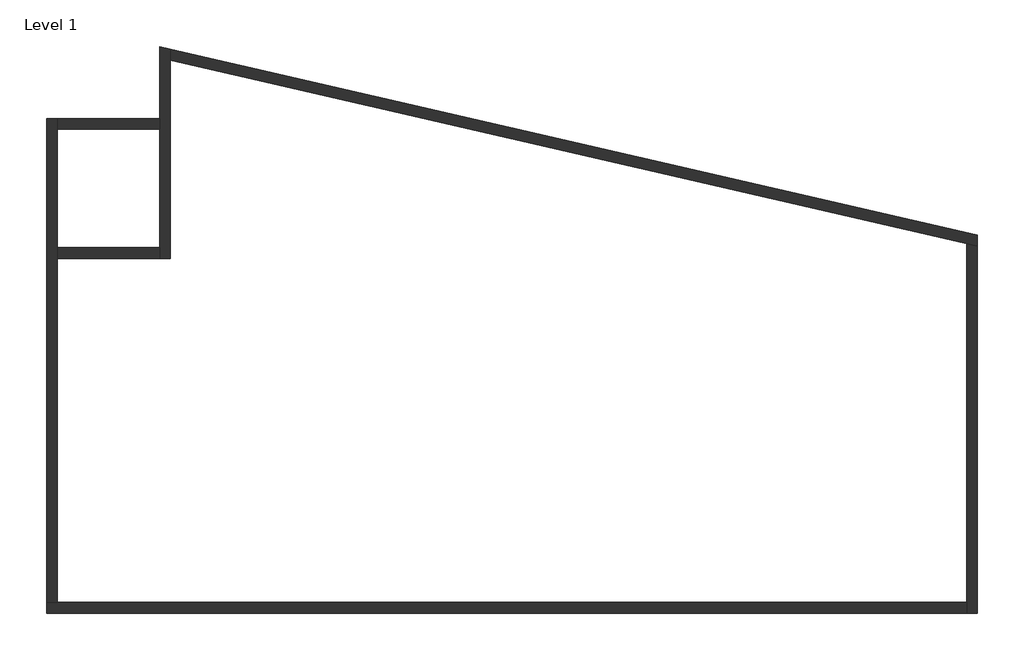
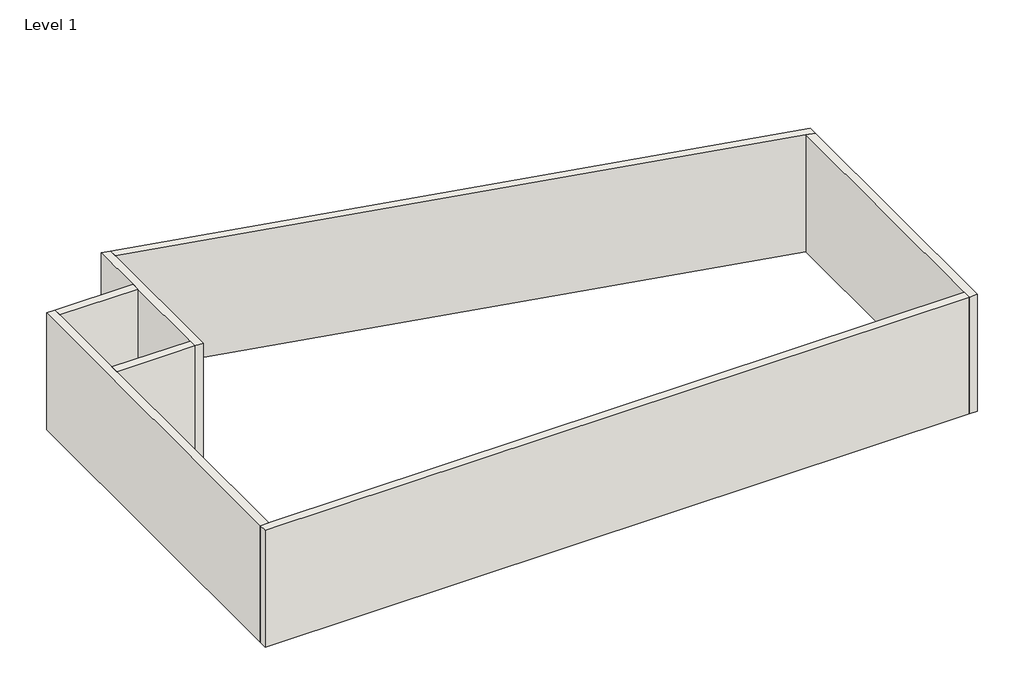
# One storey: 7 walls.
"""IFC4 building model written with IfcOpenShell, lengths in millimetres."""

from ifc_helpers import new_model, si_unit, origin, origin_with_axes, place, context, project, spatial, polyline, outline, extrude, faceted_brep, element, save

model = new_model("IFC4")

# Units and contexts
model_context = context("Model", 3, world=origin())
ifc_project = project(units=[si_unit("LENGTHUNIT", "METRE", prefix="MILLI")], contexts=[model_context])

# Site, building, storey
site = spatial("IfcSite", under=ifc_project)
building = spatial("IfcBuilding", under=site)
storey = spatial("IfcBuildingStorey", under=building, Name="Level 1", Elevation=0.0)

# Walls
placement = place(None, origin())
element("IfcWall", 1, ObjectType="Generic - 8\"", at=placement, inside=storey, context=model_context, shape_type="Brep", body=[
    faceted_brep([(-8751.1799699, 8273.3620776, 0.0), (-8751.1799699, 12022.0557132, 0.0), (-8751.1799699, 12230.6007079, 0.0), (-8751.1799699, 12230.6007079, 3048.0), (-8751.1799699, 12022.0557132, 3048.0), (-8751.1799699, 8273.3620776, 3048.0), (-8954.3799699, 8273.3620776, 0.0), (-8954.3799699, 8273.3620776, 3048.0), (-8954.3799699, 8476.5620776, 3048.0), (-8954.3799699, 10711.7620776, 3048.0), (-8954.3799699, 10914.9620776, 3048.0), (-8954.3799699, 12277.5131243, 3048.0), (-8954.3799699, 12277.5131243, 0.0), (-8954.3799699, 10914.9620776, 0.0), (-8954.3799699, 10711.7620776, 0.0), (-8954.3799699, 8476.5620776, 0.0)], [[[0, 1, 2, 3, 4, 5]], [[6, 7, 8, 9, 10, 11, 12, 13, 14, 15]], [[2, 1, 0, 6, 15, 14, 13, 12]], [[5, 4, 3, 11, 10, 9, 8, 7]], [[3, 2, 12, 11]], [[0, 5, 7, 6]]]),
])
element("IfcWall", 2, ObjectType="Generic - 8\"", at=placement, inside=storey, context=model_context, shape_type="Brep", body=[
    faceted_brep([(-8751.1799699, 12022.0557132, 0.0), (6285.6200301, 8550.5368969, 0.0), (6488.8200301, 8503.6244805, 0.0), (6488.8200301, 8503.6244805, 3048.0), (6285.6200301, 8550.5368969, 3048.0), (-8751.1799699, 12022.0557132, 3048.0), (-8751.1799699, 12230.6007079, 0.0), (-8751.1799699, 12230.6007079, 3048.0), (6488.8200301, 8712.1694752, 3048.0), (6488.8200301, 8712.1694752, 0.0)], [[[0, 1, 2, 3, 4, 5]], [[6, 7, 8, 9]], [[2, 1, 0, 6, 9]], [[5, 4, 3, 8, 7]], [[0, 5, 7, 6]], [[3, 2, 9, 8]]]),
])
element("IfcWall", 3, ObjectType="Generic - 8\"", at=placement, inside=storey, context=model_context, shape_type="Brep", body=[
    faceted_brep([(6285.6200301, 8550.5368969, 0.0), (6285.6200301, 1770.9620776, 0.0), (6285.6200301, 1567.7620776, 0.0), (6285.6200301, 1567.7620776, 3048.0), (6285.6200301, 1770.9620776, 3048.0), (6285.6200301, 8550.5368969, 3048.0), (6488.8200301, 8503.6244805, 0.0), (6488.8200301, 8503.6244805, 3048.0), (6488.8200301, 1567.7620776, 3048.0), (6488.8200301, 1567.7620776, 0.0)], [[[0, 1, 2, 3, 4, 5]], [[6, 7, 8, 9]], [[2, 1, 0, 6, 9]], [[5, 4, 3, 8, 7]], [[0, 5, 7, 6]], [[3, 2, 9, 8]]]),
])
element("IfcWall", 4, ObjectType="Generic - 8\"", at=placement, inside=storey, context=model_context, shape_type="Brep", body=[
    faceted_brep([(6285.6200301, 1770.9620776, 0.0), (-10884.7799699, 1770.9620776, 0.0), (-11087.9799699, 1770.9620776, 0.0), (-11087.9799699, 1770.9620776, 3048.0), (-10884.7799699, 1770.9620776, 3048.0), (6285.6200301, 1770.9620776, 3048.0), (6285.6200301, 1567.7620776, 0.0), (6285.6200301, 1567.7620776, 3048.0), (-11087.9799699, 1567.7620776, 3048.0), (-11087.9799699, 1567.7620776, 0.0)], [[[0, 1, 2, 3, 4, 5]], [[6, 7, 8, 9]], [[2, 1, 0, 6, 9]], [[5, 4, 3, 8, 7]], [[0, 5, 7, 6]], [[3, 2, 9, 8]]]),
])
element("IfcWall", 5, ObjectType="Generic - 8\"", at=placement, inside=storey, context=model_context, shape_type="Brep", body=[
    faceted_brep([(-10884.7799699, 1770.9620776, 0.0), (-10884.7799699, 8273.3620776, 0.0), (-10884.7799699, 8476.5620776, 0.0), (-10884.7799699, 10711.7620776, 0.0), (-10884.7799699, 10914.9620776, 0.0), (-10884.7799699, 10914.9620776, 3048.0), (-10884.7799699, 10711.7620776, 3048.0), (-10884.7799699, 8476.5620776, 3048.0), (-10884.7799699, 8273.3620776, 3048.0), (-10884.7799699, 1770.9620776, 3048.0), (-11087.9799699, 1770.9620776, 0.0), (-11087.9799699, 1770.9620776, 3048.0), (-11087.9799699, 10914.9620776, 3048.0), (-11087.9799699, 10914.9620776, 0.0)], [[[0, 1, 2, 3, 4, 5, 6, 7, 8, 9]], [[10, 11, 12, 13]], [[4, 3, 2, 1, 0, 10, 13]], [[9, 8, 7, 6, 5, 12, 11]], [[0, 9, 11, 10]], [[5, 4, 13, 12]]]),
])
element("IfcWall", 6, ObjectType="Generic - 8\"", at=placement, inside=storey, context=model_context, shape_type="SweptSolid", body=[
    extrude(outline(polyline([(-8954.3799699, 10711.7620776), (-10884.7799699, 10711.7620776), (-10884.7799699, 10914.9620776), (-8954.3799699, 10914.9620776), (-8954.3799699, 10711.7620776)])), origin_with_axes(), (0.0, 0.0, 1.0), 3048.0),
])
element("IfcWall", 7, ObjectType="Generic - 8\"", at=placement, inside=storey, context=model_context, shape_type="SweptSolid", body=[
    extrude(outline(polyline([(-10884.7799699, 8476.5620776), (-8954.3799699, 8476.5620776), (-8954.3799699, 8273.3620776), (-10884.7799699, 8273.3620776), (-10884.7799699, 8476.5620776)])), origin_with_axes(), (0.0, 0.0, 1.0), 3048.0),
])

save(model, "model.ifc")
